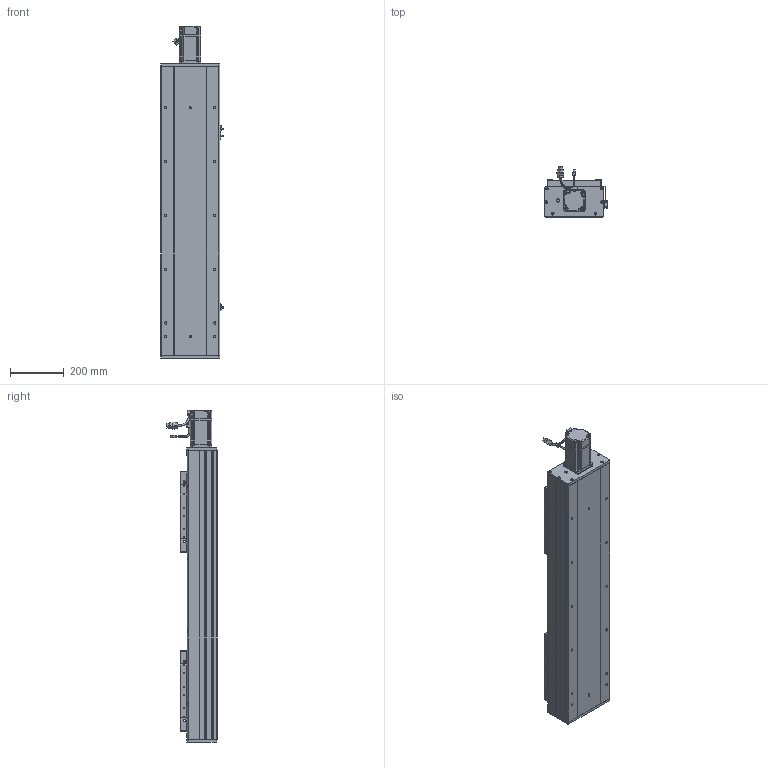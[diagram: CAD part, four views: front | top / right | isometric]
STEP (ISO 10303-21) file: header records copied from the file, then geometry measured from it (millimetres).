
FILE_DESCRIPTION (( 'STEP AP203' ), '1' );
FILE_NAME ('RY220F-L2525-300-MK.SLDASM_650.step', '2022-07-04T01:03:28', ( '' ), ( '' ), 'SwSTEP 2.0', 'SolidWorks 2016', '' );
FILE_SCHEMA (( 'CONFIG_CONTROL_DESIGN' ));
Length unit declared in the file: millimetre
Products named in the file (15): RY220F-詩湍揤踡輸; RY220F-L2525-300-MK.SLDASM_650; 覜茼ん672; RY220F-奻裔啣-300_650; 滅袉蝶18-20; RY220F-672覜茼んえ; RY220电机支撑座FK20（PCD90M6）; RY220F-祥凄詩湍-MK-300_650; RY220F-滅鳥奻裔; RY220F菁釱MK-300_650; RY220F臏賑釱25-32佪裝; RY220Fヶ裔啣; 滅袉蝶18-24; 怢湛750W_ECMA-CX0807ES; RY220F綴裔啣
Assembly tree (23 placements, depth 2):
  RY220F-L2525-300-MK.SLDASM_650
    RY220F菁釱MK-300_650
    RY220电机支撑座FK20（PCD90M6）
    RY220F-奻裔啣-300_650  x2
    怢湛750W_ECMA-CX0807ES
    RY220F臏賑釱25-32佪裝  x2
    RY220F-滅鳥奻裔  x2
    滅袉蝶18-20
    滅袉蝶18-24  x3
    RY220Fヶ裔啣
    RY220F綴裔啣
    RY220F-祥凄詩湍-MK-300_650
    RY220F-詩湍揤踡輸  x2
    覜茼ん672  x3
    RY220F-672覜茼んえ  x2
Bounding box: 233.7 x 187.27 x 1234.3 mm (x, y, z)
Volume: 12533426.1 mm3; surface area: 3039608.2 mm2
Topology: 24 solids, 24 shells, 2706 faces, 7422 edges, 4608 vertices
Faces by surface type: cylinder 1218, plane 1030, cone 395, bspline 37, sphere 16, torus 10
Entity records: 67434 total; most frequent: CARTESIAN_POINT 18236, ORIENTED_EDGE 9986, DIRECTION 9662, EDGE_CURVE 4993, AXIS2_PLACEMENT_3D 3427, VERTEX_POINT 3248, VECTOR 2808, LINE 2808
